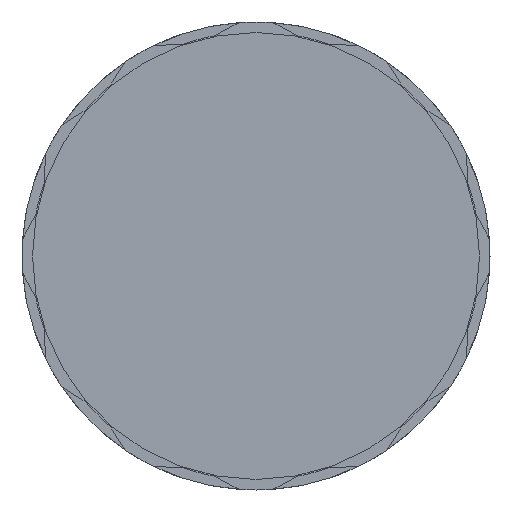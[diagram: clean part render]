
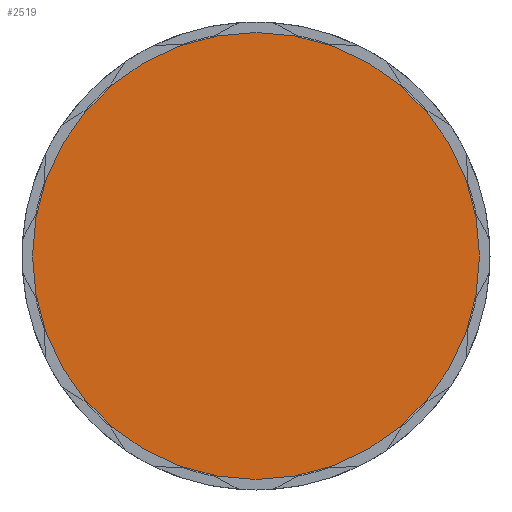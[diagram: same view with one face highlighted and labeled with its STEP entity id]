
A CAD part, front view. The second image highlights one B-rep face of the part: STEP entity #2519.
In plain terms, the highlighted planar face has unit normal (0, -1, 0).
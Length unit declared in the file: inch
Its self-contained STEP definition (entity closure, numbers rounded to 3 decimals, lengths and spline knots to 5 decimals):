
#113 = CARTESIAN_POINT ( 'NONE',  ( 0., 0., 0. ) ) ;
#130 = ORIENTED_EDGE ( 'NONE', *, *, #1041, .T. ) ;
#312 = CIRCLE ( 'NONE', #2925, 0.52992 ) ;
#424 = DIRECTION ( 'NONE',  ( 1., 0., 0. ) ) ;
#513 = CARTESIAN_POINT ( 'NONE',  ( 0., 0., 0. ) ) ;
#564 = AXIS2_PLACEMENT_3D ( 'NONE', #113, #3025, #424 ) ;
#714 = DIRECTION ( 'NONE',  ( 0., -1., 0. ) ) ;
#765 = EDGE_LOOP ( 'NONE', ( #130, #1862 ) ) ;
#802 = DIRECTION ( 'NONE',  ( 0., -1., 0. ) ) ;
#858 = CIRCLE ( 'NONE', #2585, 0.52992 ) ;
#901 = CARTESIAN_POINT ( 'NONE',  ( 0., 0., 0.52992 ) ) ;
#992 = DIRECTION ( 'NONE',  ( 0., 0., -1. ) ) ;
#1038 = EDGE_CURVE ( 'NONE', #2954, #2970, #858, .T. ) ;
#1041 = EDGE_CURVE ( 'NONE', #2970, #2954, #312, .T. ) ;
#1114 = CARTESIAN_POINT ( 'NONE',  ( 0., 0., 0. ) ) ;
#1404 = CARTESIAN_POINT ( 'NONE',  ( 0., 0., -0.52992 ) ) ;
#1862 = ORIENTED_EDGE ( 'NONE', *, *, #1038, .T. ) ;
#2225 = PLANE ( 'NONE',  #564 ) ;
#2411 = DIRECTION ( 'NONE',  ( 0., 0., -1. ) ) ;
#2468 = FACE_OUTER_BOUND ( 'NONE', #765, .T. ) ;
#2519 = ADVANCED_FACE ( 'NONE', ( #2468 ), #2225, .F. ) ;
#2585 = AXIS2_PLACEMENT_3D ( 'NONE', #1114, #714, #992 ) ;
#2925 = AXIS2_PLACEMENT_3D ( 'NONE', #513, #802, #2411 ) ;
#2954 = VERTEX_POINT ( 'NONE', #901 ) ;
#2970 = VERTEX_POINT ( 'NONE', #1404 ) ;
#3025 = DIRECTION ( 'NONE',  ( 0., 1., 0. ) ) ;
